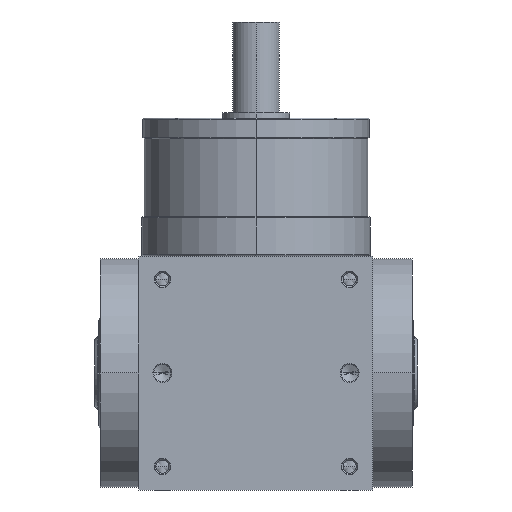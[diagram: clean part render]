
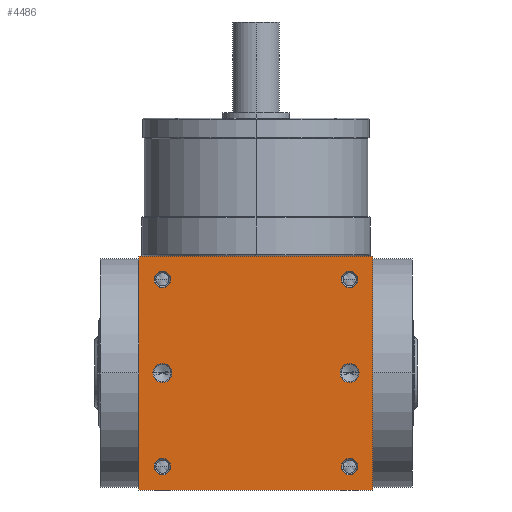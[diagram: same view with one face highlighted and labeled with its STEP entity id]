
A CAD part, front view. The second image highlights one B-rep face of the part: STEP entity #4486.
In plain terms, the highlighted planar face has unit normal (0, -1, 0).
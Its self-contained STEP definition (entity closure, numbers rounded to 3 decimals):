
#5=DIRECTION('',(1.,0.,0.));
#6=VECTOR('',#5,90.);
#7=CARTESIAN_POINT('',(-45.,-45.,-45.));
#8=LINE('',#7,#6);
#155=DIRECTION('',(0.,0.,1.));
#156=VECTOR('',#155,90.);
#157=CARTESIAN_POINT('',(45.,-45.,-45.));
#158=LINE('',#157,#156);
#209=DIRECTION('',(0.,0.,1.));
#210=VECTOR('',#209,90.);
#211=CARTESIAN_POINT('',(-45.,-45.,-45.));
#212=LINE('',#211,#210);
#213=CARTESIAN_POINT('',(36.,-45.,36.));
#214=DIRECTION('',(0.,1.,0.));
#215=DIRECTION('',(-1.,0.,0.));
#216=AXIS2_PLACEMENT_3D('',#213,#214,#215);
#218=CARTESIAN_POINT('',(36.,-45.,36.));
#219=DIRECTION('',(0.,1.,0.));
#220=DIRECTION('',(1.,0.,0.));
#221=AXIS2_PLACEMENT_3D('',#218,#219,#220);
#223=CARTESIAN_POINT('',(-36.,-45.,36.));
#224=DIRECTION('',(0.,1.,0.));
#225=DIRECTION('',(-1.,0.,0.));
#226=AXIS2_PLACEMENT_3D('',#223,#224,#225);
#228=CARTESIAN_POINT('',(-36.,-45.,36.));
#229=DIRECTION('',(0.,1.,0.));
#230=DIRECTION('',(1.,0.,0.));
#231=AXIS2_PLACEMENT_3D('',#228,#229,#230);
#233=CARTESIAN_POINT('',(36.,-45.,-36.));
#234=DIRECTION('',(0.,1.,0.));
#235=DIRECTION('',(-1.,0.,0.));
#236=AXIS2_PLACEMENT_3D('',#233,#234,#235);
#238=CARTESIAN_POINT('',(36.,-45.,-36.));
#239=DIRECTION('',(0.,1.,0.));
#240=DIRECTION('',(1.,0.,0.));
#241=AXIS2_PLACEMENT_3D('',#238,#239,#240);
#243=CARTESIAN_POINT('',(-36.,-45.,-36.));
#244=DIRECTION('',(0.,1.,0.));
#245=DIRECTION('',(-1.,0.,0.));
#246=AXIS2_PLACEMENT_3D('',#243,#244,#245);
#248=CARTESIAN_POINT('',(-36.,-45.,-36.));
#249=DIRECTION('',(0.,1.,0.));
#250=DIRECTION('',(1.,0.,0.));
#251=AXIS2_PLACEMENT_3D('',#248,#249,#250);
#253=CARTESIAN_POINT('',(-36.,-45.,0.));
#254=DIRECTION('',(0.,1.,0.));
#255=DIRECTION('',(1.,0.,0.));
#256=AXIS2_PLACEMENT_3D('',#253,#254,#255);
#258=CARTESIAN_POINT('',(-36.,-45.,0.));
#259=DIRECTION('',(0.,1.,0.));
#260=DIRECTION('',(-1.,0.,0.));
#261=AXIS2_PLACEMENT_3D('',#258,#259,#260);
#263=CARTESIAN_POINT('',(36.,-45.,0.));
#264=DIRECTION('',(0.,1.,0.));
#265=DIRECTION('',(1.,0.,0.));
#266=AXIS2_PLACEMENT_3D('',#263,#264,#265);
#268=CARTESIAN_POINT('',(36.,-45.,0.));
#269=DIRECTION('',(0.,1.,0.));
#270=DIRECTION('',(-1.,0.,0.));
#271=AXIS2_PLACEMENT_3D('',#268,#269,#270);
#285=DIRECTION('',(1.,0.,0.));
#286=VECTOR('',#285,90.);
#287=CARTESIAN_POINT('',(-45.,-45.,45.));
#288=LINE('',#287,#286);
#3604=CARTESIAN_POINT('',(-45.,-45.,-45.));
#3606=VERTEX_POINT('',#3604);
#3607=CARTESIAN_POINT('',(45.,-45.,-45.));
#3608=VERTEX_POINT('',#3607);
#3612=CARTESIAN_POINT('',(-45.,-45.,45.));
#3614=VERTEX_POINT('',#3612);
#3615=CARTESIAN_POINT('',(45.,-45.,45.));
#3616=VERTEX_POINT('',#3615);
#3771=CARTESIAN_POINT('',(32.8,-45.,36.));
#3772=CARTESIAN_POINT('',(39.2,-45.,36.));
#3773=VERTEX_POINT('',#3771);
#3774=VERTEX_POINT('',#3772);
#3779=CARTESIAN_POINT('',(-39.2,-45.,36.));
#3780=CARTESIAN_POINT('',(-32.8,-45.,36.));
#3781=VERTEX_POINT('',#3779);
#3782=VERTEX_POINT('',#3780);
#3787=CARTESIAN_POINT('',(32.8,-45.,-36.));
#3788=CARTESIAN_POINT('',(39.2,-45.,-36.));
#3789=VERTEX_POINT('',#3787);
#3790=VERTEX_POINT('',#3788);
#3795=CARTESIAN_POINT('',(-39.2,-45.,-36.));
#3796=CARTESIAN_POINT('',(-32.8,-45.,-36.));
#3797=VERTEX_POINT('',#3795);
#3798=VERTEX_POINT('',#3796);
#4119=CARTESIAN_POINT('',(-32.35,-45.,
0.));
#4120=CARTESIAN_POINT('',(-39.65,-45.,
0.));
#4121=VERTEX_POINT('',#4119);
#4122=VERTEX_POINT('',#4120);
#4127=CARTESIAN_POINT('',(39.65,-45.,0.));
#4128=CARTESIAN_POINT('',(32.35,-45.,0.));
#4129=VERTEX_POINT('',#4127);
#4130=VERTEX_POINT('',#4128);
#4438=CARTESIAN_POINT('',(-45.,-45.,-45.));
#4439=DIRECTION('',(0.,-1.,0.));
#4440=DIRECTION('',(1.,0.,0.));
#4441=AXIS2_PLACEMENT_3D('',#4438,#4439,#4440);
#4442=PLANE('',#4441);
#4443=ORIENTED_EDGE('',*,*,#4278,.F.);
#4444=ORIENTED_EDGE('',*,*,#4321,.T.);
#4446=ORIENTED_EDGE('',*,*,#4445,.T.);
#4447=ORIENTED_EDGE('',*,*,#4400,.F.);
#4448=EDGE_LOOP('',(#4443,#4444,#4446,#4447));
#4449=FACE_OUTER_BOUND('',#4448,.F.);
#4451=ORIENTED_EDGE('',*,*,#4450,.F.);
#4453=ORIENTED_EDGE('',*,*,#4452,.F.);
#4454=EDGE_LOOP('',(#4451,#4453));
#4455=FACE_BOUND('',#4454,.F.);
#4457=ORIENTED_EDGE('',*,*,#4456,.F.);
#4459=ORIENTED_EDGE('',*,*,#4458,.F.);
#4460=EDGE_LOOP('',(#4457,#4459));
#4461=FACE_BOUND('',#4460,.F.);
#4463=ORIENTED_EDGE('',*,*,#4462,.F.);
#4465=ORIENTED_EDGE('',*,*,#4464,.F.);
#4466=EDGE_LOOP('',(#4463,#4465));
#4467=FACE_BOUND('',#4466,.F.);
#4469=ORIENTED_EDGE('',*,*,#4468,.F.);
#4471=ORIENTED_EDGE('',*,*,#4470,.F.);
#4472=EDGE_LOOP('',(#4469,#4471));
#4473=FACE_BOUND('',#4472,.F.);
#4475=ORIENTED_EDGE('',*,*,#4474,.F.);
#4477=ORIENTED_EDGE('',*,*,#4476,.F.);
#4478=EDGE_LOOP('',(#4475,#4477));
#4479=FACE_BOUND('',#4478,.F.);
#4481=ORIENTED_EDGE('',*,*,#4480,.F.);
#4483=ORIENTED_EDGE('',*,*,#4482,.F.);
#4484=EDGE_LOOP('',(#4481,#4483));
#4485=FACE_BOUND('',#4484,.F.);
#4486=ADVANCED_FACE('',(#4449,#4455,#4461,#4467,#4473,#4479,#4485),#4442,.T.);
#217=CIRCLE('',#216,3.2);
#222=CIRCLE('',#221,3.2);
#227=CIRCLE('',#226,3.2);
#232=CIRCLE('',#231,3.2);
#237=CIRCLE('',#236,3.2);
#242=CIRCLE('',#241,3.2);
#247=CIRCLE('',#246,3.2);
#252=CIRCLE('',#251,3.2);
#257=CIRCLE('',#256,3.65);
#262=CIRCLE('',#261,3.65);
#267=CIRCLE('',#266,3.65);
#272=CIRCLE('',#271,3.65);
#4278=EDGE_CURVE('',#3606,#3608,#8,.T.);
#4321=EDGE_CURVE('',#3606,#3614,#212,.T.);
#4400=EDGE_CURVE('',#3608,#3616,#158,.T.);
#4445=EDGE_CURVE('',#3614,#3616,#288,.T.);
#4450=EDGE_CURVE('',#3773,#3774,#217,.T.);
#4452=EDGE_CURVE('',#3774,#3773,#222,.T.);
#4456=EDGE_CURVE('',#3781,#3782,#227,.T.);
#4458=EDGE_CURVE('',#3782,#3781,#232,.T.);
#4462=EDGE_CURVE('',#3789,#3790,#237,.T.);
#4464=EDGE_CURVE('',#3790,#3789,#242,.T.);
#4468=EDGE_CURVE('',#3797,#3798,#247,.T.);
#4470=EDGE_CURVE('',#3798,#3797,#252,.T.);
#4474=EDGE_CURVE('',#4121,#4122,#257,.T.);
#4476=EDGE_CURVE('',#4122,#4121,#262,.T.);
#4480=EDGE_CURVE('',#4129,#4130,#267,.T.);
#4482=EDGE_CURVE('',#4130,#4129,#272,.T.);
